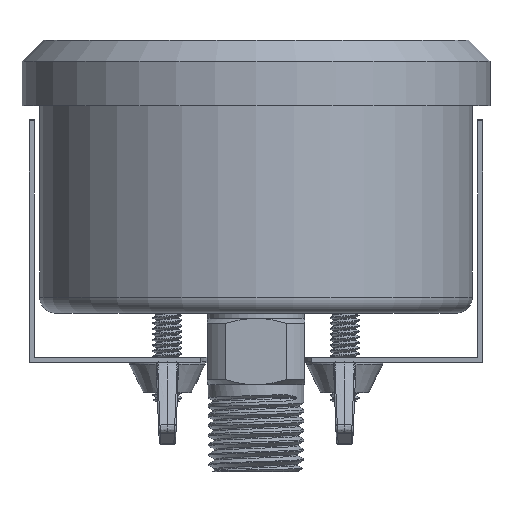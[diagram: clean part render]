
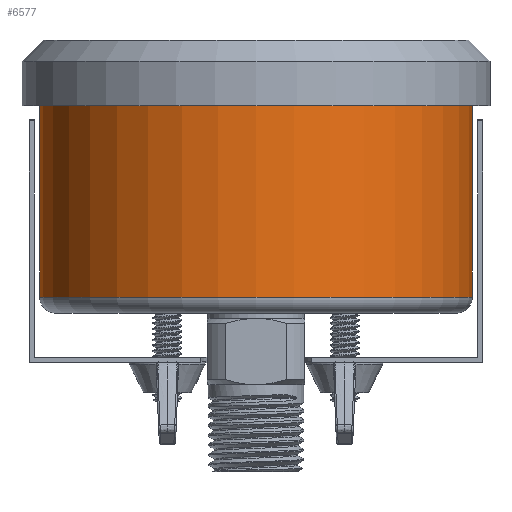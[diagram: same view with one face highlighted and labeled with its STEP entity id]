
A CAD part, front view. The second image highlights one B-rep face of the part: STEP entity #6577.
In plain terms, the highlighted cylindrical face has radius 31 mm (diameter 62 mm), a full revolution.
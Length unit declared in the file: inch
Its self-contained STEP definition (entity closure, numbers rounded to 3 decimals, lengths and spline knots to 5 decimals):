
#913=FACE_OUTER_BOUND('',#1305,.T.);
#1305=EDGE_LOOP('',(#4591,#4592,#4593,#4594));
#1730=LINE('',#9254,#2274);
#2274=VECTOR('',#7693,1.22047);
#2818=CIRCLE('',#7124,1.22047);
#2828=CIRCLE('',#7140,1.22047);
#2983=VERTEX_POINT('',#9222);
#2993=VERTEX_POINT('',#9250);
#3610=EDGE_CURVE('',#2983,#2983,#2818,.T.);
#3622=EDGE_CURVE('',#2993,#2993,#2828,.T.);
#3624=EDGE_CURVE('',#2983,#2993,#1730,.T.);
#4591=ORIENTED_EDGE('',*,*,#3610,.T.);
#4592=ORIENTED_EDGE('',*,*,#3624,.T.);
#4593=ORIENTED_EDGE('',*,*,#3622,.T.);
#4594=ORIENTED_EDGE('',*,*,#3624,.F.);
#6478=CYLINDRICAL_SURFACE('',#7142,1.22047);
#6577=ADVANCED_FACE('',(#913),#6478,.T.);
#7124=AXIS2_PLACEMENT_3D('',#9223,#7653,#7654);
#7140=AXIS2_PLACEMENT_3D('',#9251,#7687,#7688);
#7142=AXIS2_PLACEMENT_3D('',#9253,#7691,#7692);
#7653=DIRECTION('center_axis',(0.,0.,-1.));
#7654=DIRECTION('ref_axis',(1.,0.,0.));
#7687=DIRECTION('center_axis',(0.,0.,1.));
#7688=DIRECTION('ref_axis',(1.,0.,0.));
#7691=DIRECTION('center_axis',(0.,0.,1.));
#7692=DIRECTION('ref_axis',(1.,0.,0.));
#7693=DIRECTION('',(0.,0.,-1.));
#9222=CARTESIAN_POINT('',(-1.22047,0.,1.4375));
#9223=CARTESIAN_POINT('Origin',(0.,0.,1.4375));
#9250=CARTESIAN_POINT('',(-1.22047,0.,0.09055));
#9251=CARTESIAN_POINT('Origin',(0.,0.,0.09055));
#9253=CARTESIAN_POINT('Origin',(0.,0.,0.));
#9254=CARTESIAN_POINT('',(-1.22047,0.,0.));
